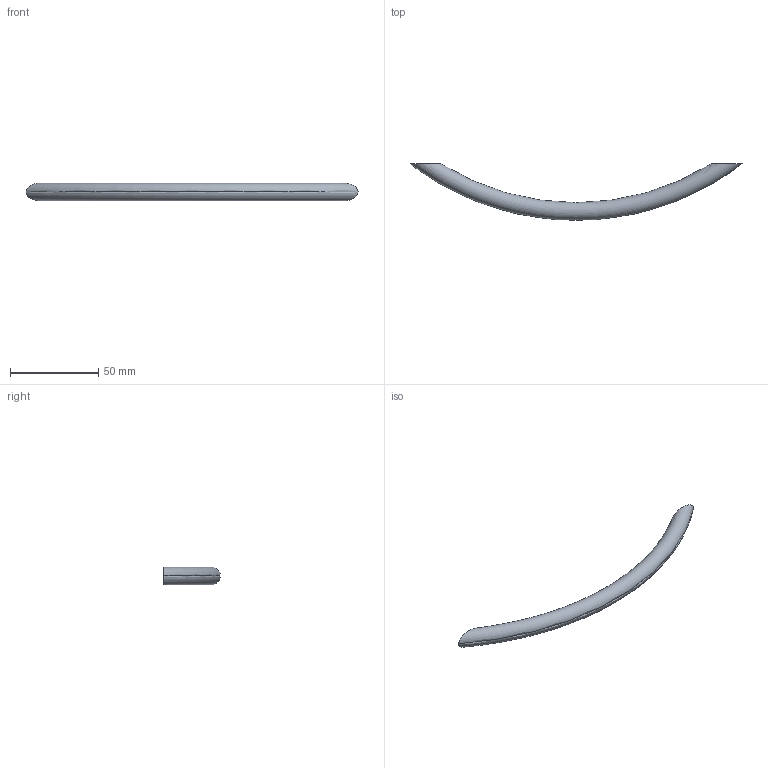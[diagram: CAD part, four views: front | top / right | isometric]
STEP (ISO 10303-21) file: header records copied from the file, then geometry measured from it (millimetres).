
FILE_DESCRIPTION( ( '' ), '1' );
FILE_NAME( 'D:/HETTCAD 2014/DATA TRANSFER/AUTOCAD EXPORT/SENT/Sheet correction/prodecor nicia/9070985/9070722.stp', '2014-08-27T08:55:55', ( '' ), ( '' ), ' ', ' ', ' ' );
FILE_SCHEMA( ( 'CONFIG_CONTROL_DESIGN' ) );
Length unit declared in the file: millimetre
Products named in the file (1): 1
Bounding box: 188 x 31.93 x 9.99 mm (x, y, z)
Volume: 14156.3 mm3; surface area: 6143.8 mm2
Topology: 1 solids, 1 shells, 10 faces, 18 edges, 12 vertices
Faces by surface type: cylinder 4, plane 4, torus 2
Entity records: 500 total; most frequent: CARTESIAN_POINT 253, DIRECTION 46, ORIENTED_EDGE 36, AXIS2_PLACEMENT_3D 21, EDGE_CURVE 18, EDGE_LOOP 12, VERTEX_POINT 12, ADVANCED_FACE 10
